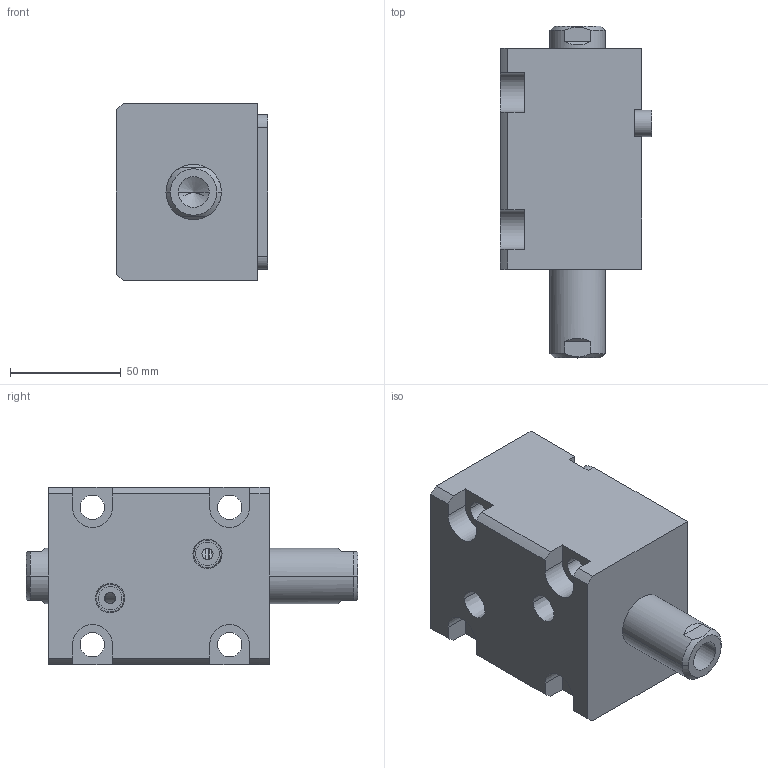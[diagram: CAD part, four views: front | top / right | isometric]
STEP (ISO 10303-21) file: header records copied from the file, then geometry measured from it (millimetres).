
FILE_DESCRIPTION (( 'STEP AP214' ), '1' );
FILE_NAME ('chtb-lw40x30_asm.STEP', '2018-06-05T01:09:12', ( 'Windows' ), ( 'Microsoft' ), 'SwSTEP 2.0', 'SolidWorks 2015', '' );
FILE_SCHEMA (( 'AUTOMOTIVE_DESIGN' ));
Length unit declared in the file: millimetre
Products named in the file (5): CHTB-SW40X30NHSG; CHTB-SD40QG; CHTB-LW40X30NBT; CHTB-LA40PJ; chtb-lw40x30_asm
Assembly tree (4 placements, depth 2):
  chtb-lw40x30_asm
    CHTB-LA40PJ
    CHTB-LW40X30NBT
    CHTB-SD40QG
    CHTB-SW40X30NHSG
Bounding box: 68.5 x 150 x 80 mm (x, y, z)
Volume: 470028.9 mm3; surface area: 89354.4 mm2
Topology: 4 solids, 4 shells, 172 faces, 462 edges, 304 vertices
Faces by surface type: cylinder 77, plane 52, cone 17, bspline 14, torus 12
Entity records: 10654 total; most frequent: CARTESIAN_POINT 6188, ORIENTED_EDGE 904, DIRECTION 853, EDGE_CURVE 452, AXIS2_PLACEMENT_3D 340, VERTEX_POINT 304, EDGE_LOOP 204, CIRCLE 175
